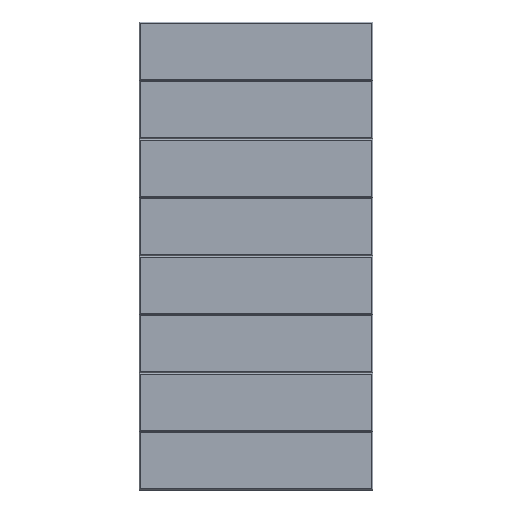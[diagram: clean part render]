
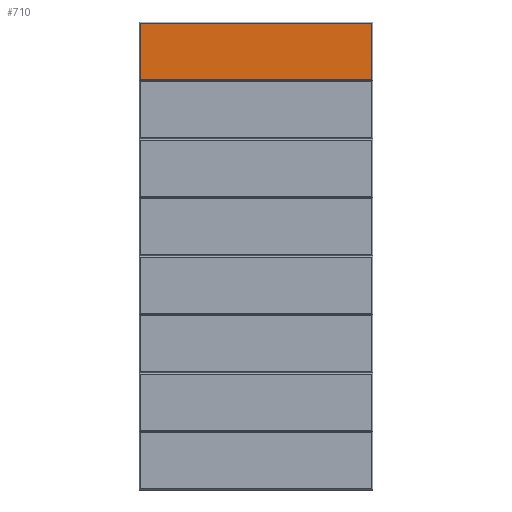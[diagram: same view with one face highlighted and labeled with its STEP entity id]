
A CAD part, top view. The second image highlights one B-rep face of the part: STEP entity #710.
In plain terms, the highlighted planar face has unit normal (0, 0, 1).
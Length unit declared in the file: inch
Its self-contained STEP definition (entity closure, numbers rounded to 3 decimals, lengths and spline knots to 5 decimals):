
#36=FACE_OUTER_BOUND('',#81,.T.);
#81=EDGE_LOOP('',(#534,#535,#536,#537));
#150=LINE('',#1089,#247);
#154=LINE('',#1098,#251);
#170=LINE('',#1125,#267);
#171=LINE('',#1126,#268);
#247=VECTOR('',#874,0.3937);
#251=VECTOR('',#882,0.3937);
#267=VECTOR('',#912,0.3937);
#268=VECTOR('',#913,0.3937);
#336=VERTEX_POINT('',#1083);
#338=VERTEX_POINT('',#1087);
#341=VERTEX_POINT('',#1097);
#345=VERTEX_POINT('',#1124);
#398=EDGE_CURVE('',#336,#338,#150,.T.);
#402=EDGE_CURVE('',#336,#341,#154,.T.);
#418=EDGE_CURVE('',#345,#338,#170,.T.);
#419=EDGE_CURVE('',#341,#345,#171,.T.);
#534=ORIENTED_EDGE('',*,*,#398,.T.);
#535=ORIENTED_EDGE('',*,*,#418,.F.);
#536=ORIENTED_EDGE('',*,*,#419,.F.);
#537=ORIENTED_EDGE('',*,*,#402,.F.);
#665=PLANE('',#777);
#710=ADVANCED_FACE('',(#36),#665,.T.);
#777=AXIS2_PLACEMENT_3D('',#1123,#910,#911);
#874=DIRECTION('',(1.,0.,0.));
#882=DIRECTION('',(0.,1.,0.));
#910=DIRECTION('center_axis',(0.,0.,1.));
#911=DIRECTION('ref_axis',(1.,0.,0.));
#912=DIRECTION('',(0.,-1.,0.));
#913=DIRECTION('',(1.,0.,0.));
#1083=CARTESIAN_POINT('',(-23.75,36.25,0.5));
#1087=CARTESIAN_POINT('',(23.75,36.25,0.5));
#1089=CARTESIAN_POINT('',(13.,36.25,0.5));
#1097=CARTESIAN_POINT('',(-23.75,47.75,0.5));
#1098=CARTESIAN_POINT('',(-23.75,24.,0.5));
#1123=CARTESIAN_POINT('Origin',(0.,0.,0.5));
#1124=CARTESIAN_POINT('',(23.75,47.75,0.5));
#1125=CARTESIAN_POINT('',(23.75,-24.,0.5));
#1126=CARTESIAN_POINT('',(12.,47.75,0.5));
